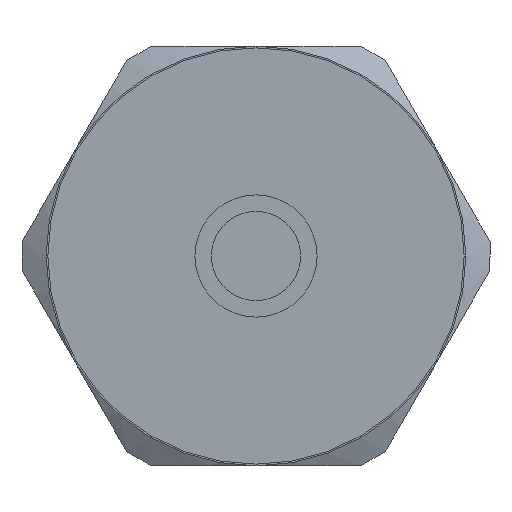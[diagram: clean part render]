
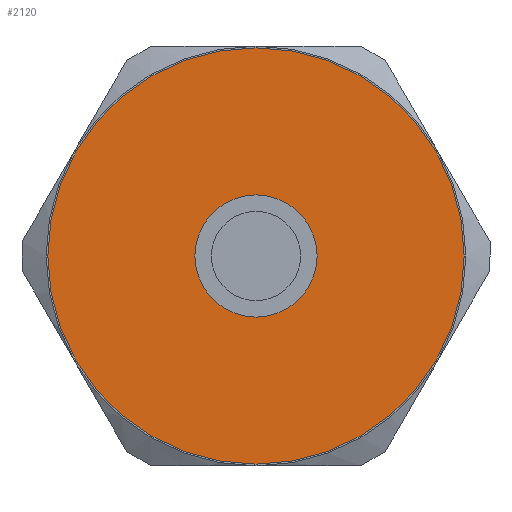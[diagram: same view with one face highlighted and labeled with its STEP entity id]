
A CAD part, front view. The second image highlights one B-rep face of the part: STEP entity #2120.
In plain terms, the highlighted planar face has unit normal (0, -1, 0).
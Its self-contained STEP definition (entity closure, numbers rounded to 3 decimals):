
#23 = CARTESIAN_POINT ( 'NONE',  ( 0., -8.4, 0. ) ) ;
#204 = DIRECTION ( 'NONE',  ( 0., 0., -1. ) ) ;
#226 = VERTEX_POINT ( 'NONE', #1180 ) ;
#473 = DIRECTION ( 'NONE',  ( 0., 0., -1. ) ) ;
#693 = EDGE_CURVE ( 'NONE', #1400, #3108, #2427, .T. ) ;
#833 = DIRECTION ( 'NONE',  ( 0., 0., -1. ) ) ;
#839 = EDGE_CURVE ( 'NONE', #3031, #226, #1604, .T. ) ;
#890 = EDGE_LOOP ( 'NONE', ( #1710, #2133 ) ) ;
#1003 = AXIS2_PLACEMENT_3D ( 'NONE', #2604, #1506, #204 ) ;
#1070 = CARTESIAN_POINT ( 'NONE',  ( 0., -8.4, 12.6 ) ) ;
#1143 = ORIENTED_EDGE ( 'NONE', *, *, #4156, .F. ) ;
#1180 = CARTESIAN_POINT ( 'NONE',  ( 0., -8.4, 3.7 ) ) ;
#1220 = CARTESIAN_POINT ( 'NONE',  ( 0., -8.4, 0. ) ) ;
#1400 = VERTEX_POINT ( 'NONE', #3167 ) ;
#1401 = DIRECTION ( 'NONE',  ( 0., -1., 0. ) ) ;
#1506 = DIRECTION ( 'NONE',  ( 0., -1., 0. ) ) ;
#1527 = AXIS2_PLACEMENT_3D ( 'NONE', #1853, #4327, #833 ) ;
#1604 = CIRCLE ( 'NONE', #4252, 3.7 ) ;
#1660 = CARTESIAN_POINT ( 'NONE',  ( 0., -8.4, 0. ) ) ;
#1710 = ORIENTED_EDGE ( 'NONE', *, *, #3745, .T. ) ;
#1853 = CARTESIAN_POINT ( 'NONE',  ( 0., -8.4, 0. ) ) ;
#1925 = DIRECTION ( 'NONE',  ( 0., -1., 0. ) ) ;
#1979 = DIRECTION ( 'NONE',  ( 0., -1., 0. ) ) ;
#2043 = AXIS2_PLACEMENT_3D ( 'NONE', #1660, #1979, #4378 ) ;
#2120 = ADVANCED_FACE ( 'NONE', ( #2861, #3909 ), #3298, .T. ) ;
#2133 = ORIENTED_EDGE ( 'NONE', *, *, #693, .T. ) ;
#2325 = CIRCLE ( 'NONE', #4527, 3.7 ) ;
#2427 = CIRCLE ( 'NONE', #2043, 12.6 ) ;
#2604 = CARTESIAN_POINT ( 'NONE',  ( 0., -8.4, 0. ) ) ;
#2800 = EDGE_LOOP ( 'NONE', ( #4333, #1143 ) ) ;
#2861 = FACE_BOUND ( 'NONE', #2800, .T. ) ;
#3031 = VERTEX_POINT ( 'NONE', #3875 ) ;
#3108 = VERTEX_POINT ( 'NONE', #1070 ) ;
#3167 = CARTESIAN_POINT ( 'NONE',  ( 0., -8.4, -12.6 ) ) ;
#3298 = PLANE ( 'NONE',  #1527 ) ;
#3745 = EDGE_CURVE ( 'NONE', #3108, #1400, #4303, .T. ) ;
#3875 = CARTESIAN_POINT ( 'NONE',  ( 0., -8.4, -3.7 ) ) ;
#3909 = FACE_OUTER_BOUND ( 'NONE', #890, .T. ) ;
#4150 = DIRECTION ( 'NONE',  ( 0., 0., -1. ) ) ;
#4156 = EDGE_CURVE ( 'NONE', #226, #3031, #2325, .T. ) ;
#4252 = AXIS2_PLACEMENT_3D ( 'NONE', #23, #1401, #4150 ) ;
#4303 = CIRCLE ( 'NONE', #1003, 12.6 ) ;
#4327 = DIRECTION ( 'NONE',  ( 0., -1., 0. ) ) ;
#4333 = ORIENTED_EDGE ( 'NONE', *, *, #839, .F. ) ;
#4378 = DIRECTION ( 'NONE',  ( 0., 0., -1. ) ) ;
#4527 = AXIS2_PLACEMENT_3D ( 'NONE', #1220, #1925, #473 ) ;
